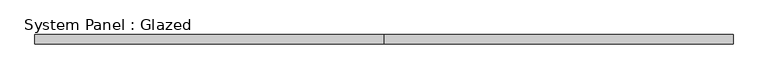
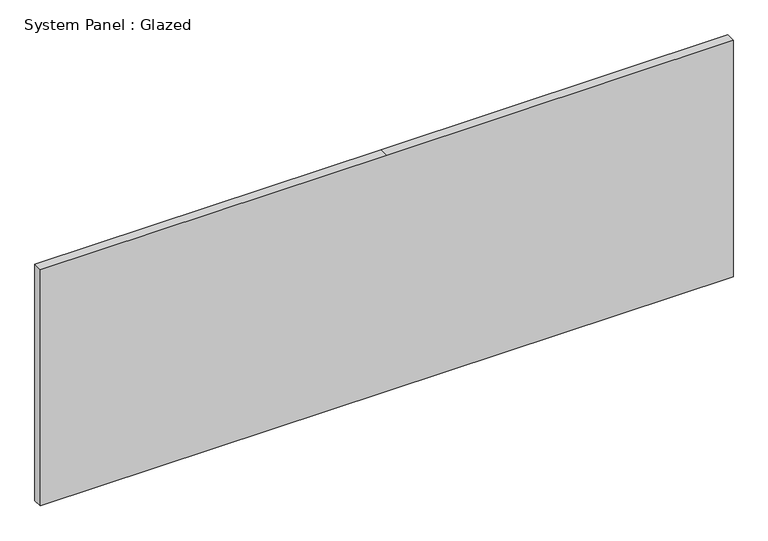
"""IFC4 building model written with IfcOpenShell, lengths in millimetres: plate geometry, System Panel : Glazed."""

from ifc_helpers import new_model, si_unit, frame, origin, place, context, project, spatial, polyline, outline, extrude, source, transform, mapped, element, save


def system_panel_glazed_f2188aaa(model_context):
    return source(origin(), model_context, "Body", "SweptSolid", [
        extrude(outline(polyline([(0.0, -933.45), (0.0, 0.0), (0.0, 933.45), (673.1, 933.45), (673.1, 0.0), (673.1, -933.45), (0.0, -933.45)])), frame((0.0, 19.05, 0.0), z_axis=(0.0, 1.0, 0.0), x_axis=(0.0, 0.0, 1.0)), (0.0, 0.0, 1.0), 25.4),
    ])


if __name__ == "__main__":
    model = new_model("IFC4")
    model_context = context("Model", 3, world=origin())
    ifc_project = project(units=[si_unit("LENGTHUNIT", "METRE", prefix="MILLI")], contexts=[model_context])
    site = spatial("IfcSite", under=ifc_project)
    building = spatial("IfcBuilding", under=site)
    placement = place(None, origin())
    system_panel_glazed_shape = system_panel_glazed_f2188aaa(model_context)
    element("IfcPlate", 1, ObjectType="System Panel : Glazed", at=placement, inside=building, context=model_context, shape_type="MappedRepresentation", body=[
        mapped(system_panel_glazed_shape, transform((0.0, 0.0, 0.0), x_axis=(1.0, 0.0, 0.0), y_axis=(0.0, 1.0, 0.0), z_axis=(0.0, 0.0, 1.0))),
    ])
    save(model, "model.ifc")
